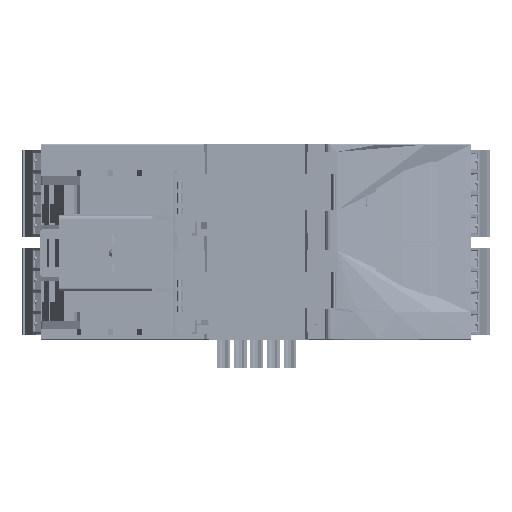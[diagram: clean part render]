
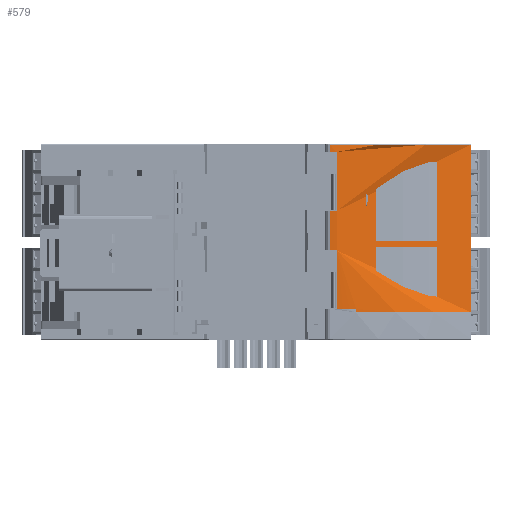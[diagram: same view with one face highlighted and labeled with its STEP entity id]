
A CAD part, top view. The second image highlights one B-rep face of the part: STEP entity #579.
In plain terms, the highlighted cylindrical face has radius 77.596 mm (diameter 155.192 mm), a partial arc.
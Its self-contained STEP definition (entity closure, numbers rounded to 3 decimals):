
#579=ADVANCED_FACE('',(#160331),#160333,.T.);
#160331=FACE_BOUND('',#160332,.T.);
#160332=EDGE_LOOP('',(#310348,#310349,#310350,#310351,#310352,#310353,#310354,#310355,
#310356,#310357,#310358,#310359));
#160333=CYLINDRICAL_SURFACE('',#160334,77.596);
#160334=AXIS2_PLACEMENT_3D('',#160335,#160336,#160337);
#160335=CARTESIAN_POINT('',(16.,0.,-77.596));
#160336=DIRECTION('',(0.,1.,0.));
#160337=DIRECTION('',(1.,0.,0.));
#310348=ORIENTED_EDGE('',*,*,#441960,.T.);
#310349=ORIENTED_EDGE('',*,*,#441961,.T.);
#310350=ORIENTED_EDGE('',*,*,#441962,.T.);
#310351=ORIENTED_EDGE('',*,*,#441963,.F.);
#310352=ORIENTED_EDGE('',*,*,#441964,.T.);
#310353=ORIENTED_EDGE('',*,*,#441965,.T.);
#310354=ORIENTED_EDGE('',*,*,#441966,.F.);
#310355=ORIENTED_EDGE('',*,*,#441967,.T.);
#310356=ORIENTED_EDGE('',*,*,#441968,.F.);
#310357=ORIENTED_EDGE('',*,*,#441969,.T.);
#310358=ORIENTED_EDGE('',*,*,#441970,.F.);
#310359=ORIENTED_EDGE('',*,*,#441971,.F.);
#441960=EDGE_CURVE('',#506699,#506700,#506701,.T.);
#441961=EDGE_CURVE('',#506700,#506702,#506703,.T.);
#441962=EDGE_CURVE('',#506702,#506704,#506705,.T.);
#441963=EDGE_CURVE('',#506706,#506704,#506707,.T.);
#441964=EDGE_CURVE('',#506706,#506708,#506709,.T.);
#441965=EDGE_CURVE('',#506708,#506710,#506711,.T.);
#441966=EDGE_CURVE('',#506712,#506710,#506713,.T.);
#441967=EDGE_CURVE('',#506712,#506714,#506715,.T.);
#441968=EDGE_CURVE('',#506716,#506714,#506717,.T.);
#441969=EDGE_CURVE('',#506716,#506718,#506719,.T.);
#441970=EDGE_CURVE('',#506720,#506718,#506721,.T.);
#441971=EDGE_CURVE('',#506699,#506720,#506722,.T.);
#506699=VERTEX_POINT('',#597302);
#506700=VERTEX_POINT('',#597303);
#506701=LINE('',#597304,#597305);
#506702=VERTEX_POINT('',#597307);
#506703=CIRCLE('',#597308,77.596);
#506704=VERTEX_POINT('',#597312);
#506705=LINE('',#597313,#597314);
#506706=VERTEX_POINT('',#597316);
#506707=CIRCLE('',#597317,77.596);
#506708=VERTEX_POINT('',#597321);
#506709=LINE('',#597322,#597323);
#506710=VERTEX_POINT('',#597325);
#506711=CIRCLE('',#597326,77.596);
#506712=VERTEX_POINT('',#597330);
#506713=LINE('',#597331,#597332);
#506714=VERTEX_POINT('',#597334);
#506715=CIRCLE('',#597335,77.596);
#506716=VERTEX_POINT('',#597339);
#506717=LINE('',#597340,#597341);
#506718=VERTEX_POINT('',#597343);
#506719=CIRCLE('',#597344,77.596);
#506720=VERTEX_POINT('',#597348);
#506721=LINE('',#597349,#597350);
#506722=CIRCLE('',#597352,77.596);
#597302=CARTESIAN_POINT('',(17.013,44.9,-0.007));
#597303=CARTESIAN_POINT('',(17.013,43.2,-0.007));
#597304=CARTESIAN_POINT('',(17.013,44.9,-0.007));
#597305=VECTOR('',#597306,1.);
#597306=DIRECTION('',(0.,-1.,0.));
#597307=CARTESIAN_POINT('',(18.6,43.2,-0.044));
#597308=AXIS2_PLACEMENT_3D('',#597309,#597310,#597311);
#597309=CARTESIAN_POINT('',(16.,43.2,-77.596));
#597310=DIRECTION('',(0.,1.,0.));
#597311=DIRECTION('',(0.013,0.,1.));
#597312=CARTESIAN_POINT('',(18.6,29.6,-0.044));
#597313=CARTESIAN_POINT('',(18.6,43.2,-0.044));
#597314=VECTOR('',#597315,1.);
#597315=DIRECTION('',(0.,-1.,0.));
#597316=CARTESIAN_POINT('',(17.013,29.6,-0.007));
#597317=AXIS2_PLACEMENT_3D('',#597318,#597319,#597320);
#597318=CARTESIAN_POINT('',(16.,29.6,-77.596));
#597319=DIRECTION('',(0.,1.,0.));
#597320=DIRECTION('',(0.013,0.,1.));
#597321=CARTESIAN_POINT('',(17.013,20.5,-0.007));
#597322=CARTESIAN_POINT('',(17.013,29.6,-0.007));
#597323=VECTOR('',#597324,1.);
#597324=DIRECTION('',(0.,-1.,0.));
#597325=CARTESIAN_POINT('',(18.6,20.5,-0.044));
#597326=AXIS2_PLACEMENT_3D('',#597327,#597328,#597329);
#597327=CARTESIAN_POINT('',(16.,20.5,-77.596));
#597328=DIRECTION('',(0.,1.,0.));
#597329=DIRECTION('',(0.013,0.,1.));
#597330=CARTESIAN_POINT('',(18.6,7.,-0.044));
#597331=CARTESIAN_POINT('',(18.6,7.,-0.044));
#597332=VECTOR('',#597333,1.);
#597333=DIRECTION('',(0.,1.,0.));
#597334=CARTESIAN_POINT('',(23.1,7.,-0.326));
#597335=AXIS2_PLACEMENT_3D('',#597336,#597337,#597338);
#597336=CARTESIAN_POINT('',(16.,7.,-77.596));
#597337=DIRECTION('',(0.,1.,0.));
#597338=DIRECTION('',(0.034,0.,0.999));
#597339=CARTESIAN_POINT('',(23.1,6.2,-0.326));
#597340=CARTESIAN_POINT('',(23.1,6.2,-0.326));
#597341=VECTOR('',#597342,1.);
#597342=DIRECTION('',(0.,1.,0.));
#597343=CARTESIAN_POINT('',(49.587,6.2,-7.645));
#597344=AXIS2_PLACEMENT_3D('',#597345,#597346,#597347);
#597345=CARTESIAN_POINT('',(16.,6.2,-77.596));
#597346=DIRECTION('',(0.,1.,0.));
#597347=DIRECTION('',(0.091,0.,0.996));
#597348=CARTESIAN_POINT('',(49.587,44.9,-7.645));
#597349=CARTESIAN_POINT('',(49.587,44.9,-7.645));
#597350=VECTOR('',#597351,1.);
#597351=DIRECTION('',(0.,-1.,0.));
#597352=AXIS2_PLACEMENT_3D('',#597353,#597354,#597355);
#597353=CARTESIAN_POINT('',(16.,44.9,-77.596));
#597354=DIRECTION('',(0.,1.,0.));
#597355=DIRECTION('',(0.013,0.,1.));
